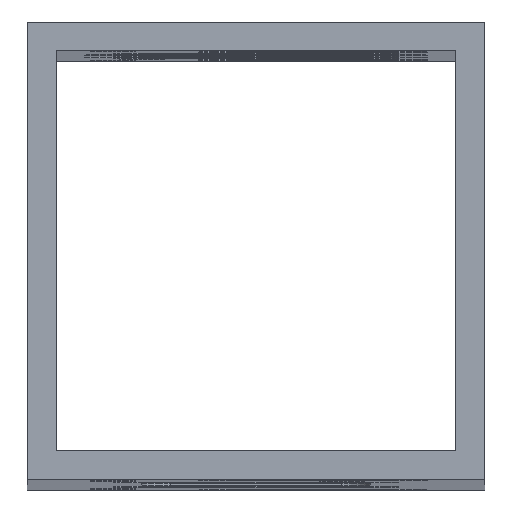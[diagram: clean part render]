
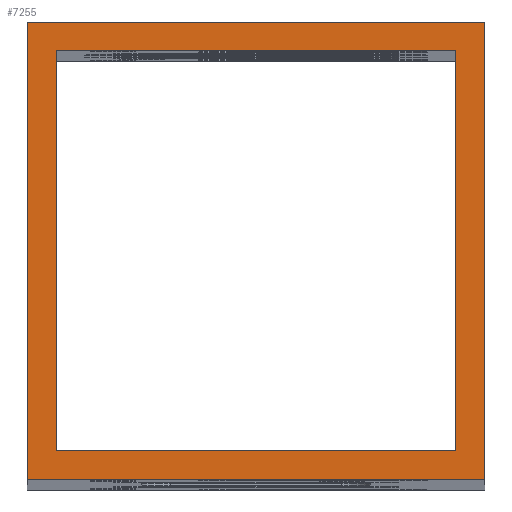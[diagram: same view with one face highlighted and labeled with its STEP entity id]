
A CAD part, top view. The second image highlights one B-rep face of the part: STEP entity #7255.
In plain terms, the highlighted planar face has unit normal (0, 0, 1).
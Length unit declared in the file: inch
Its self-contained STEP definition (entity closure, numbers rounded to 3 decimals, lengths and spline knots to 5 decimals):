
#6221=CARTESIAN_POINT('',(0.125,-0.125,0.0));
#6222=VERTEX_POINT('',#6221);
#6229=CARTESIAN_POINT('',(0.125,-1.875,0.0));
#6230=VERTEX_POINT('',#6229);
#6231=CARTESIAN_POINT('',(0.125,-1.875,0.0));
#6232=DIRECTION('',(0.0,1.0,0.0));
#6233=VECTOR('',#6232,1.75);
#6234=LINE('',#6231,#6233);
#6235=EDGE_CURVE('',#6230,#6222,#6234,.T.);
#6365=CARTESIAN_POINT('',(1.875,-1.875,0.0));
#6366=VERTEX_POINT('',#6365);
#6367=CARTESIAN_POINT('',(1.875,-1.875,0.0));
#6368=DIRECTION('',(-1.0,0.0,0.0));
#6369=VECTOR('',#6368,1.75);
#6370=LINE('',#6367,#6369);
#6371=EDGE_CURVE('',#6366,#6230,#6370,.T.);
#6488=CARTESIAN_POINT('',(1.875,-0.125,0.0));
#6489=VERTEX_POINT('',#6488);
#6490=CARTESIAN_POINT('',(1.875,-0.125,0.0));
#6491=DIRECTION('',(0.0,-1.0,0.0));
#6492=VECTOR('',#6491,1.75);
#6493=LINE('',#6490,#6492);
#6494=EDGE_CURVE('',#6489,#6366,#6493,.T.);
#6577=CARTESIAN_POINT('',(0.125,-0.125,0.0));
#6578=DIRECTION('',(1.0,0.0,0.0));
#6579=VECTOR('',#6578,1.75);
#6580=LINE('',#6577,#6579);
#6581=EDGE_CURVE('',#6222,#6489,#6580,.T.);
#6734=CARTESIAN_POINT('',(2.,-2.0,0.0));
#6735=VERTEX_POINT('',#6734);
#6742=CARTESIAN_POINT('',(0.,-2.0,0.0));
#6743=VERTEX_POINT('',#6742);
#6744=CARTESIAN_POINT('',(0.,-2.0,0.0));
#6745=DIRECTION('',(1.0,0.0,0.0));
#6746=VECTOR('',#6745,2.0);
#6747=LINE('',#6744,#6746);
#6748=EDGE_CURVE('',#6743,#6735,#6747,.T.);
#6855=CARTESIAN_POINT('',(2.0,0.,0.0));
#6856=VERTEX_POINT('',#6855);
#6863=CARTESIAN_POINT('',(2.,-2.0,0.0));
#6864=DIRECTION('',(0.0,1.0,0.0));
#6865=VECTOR('',#6864,2.);
#6866=LINE('',#6863,#6865);
#6867=EDGE_CURVE('',#6735,#6856,#6866,.T.);
#6943=CARTESIAN_POINT('',(0.0,0.0,0.0));
#6944=VERTEX_POINT('',#6943);
#6951=CARTESIAN_POINT('',(2.0,0.,0.0));
#6952=DIRECTION('',(-1.0,0.0,0.0));
#6953=VECTOR('',#6952,2.0);
#6954=LINE('',#6951,#6953);
#6955=EDGE_CURVE('',#6856,#6944,#6954,.T.);
#7105=CARTESIAN_POINT('',(0.0,0.0,0.0));
#7106=DIRECTION('',(0.0,-1.0,0.0));
#7107=VECTOR('',#7106,2.0);
#7108=LINE('',#7105,#7107);
#7109=EDGE_CURVE('',#6944,#6743,#7108,.T.);
#7238=CARTESIAN_POINT('',(1.,-1.0,0.0));
#7239=DIRECTION('',(0.0,0.0,1.0));
#7240=DIRECTION('',(1.0,0.0,0.0));
#7241=AXIS2_PLACEMENT_3D('',#7238,#7239,#7240);
#7242=PLANE('',#7241);
#7243=ORIENTED_EDGE('',*,*,#7109,.T.);
#7244=ORIENTED_EDGE('',*,*,#6748,.T.);
#7245=ORIENTED_EDGE('',*,*,#6867,.T.);
#7246=ORIENTED_EDGE('',*,*,#6955,.T.);
#7247=EDGE_LOOP('',(#7243,#7244,#7245,#7246));
#7248=FACE_OUTER_BOUND('',#7247,.T.);
#7249=ORIENTED_EDGE('',*,*,#6235,.T.);
#7250=ORIENTED_EDGE('',*,*,#6581,.T.);
#7251=ORIENTED_EDGE('',*,*,#6494,.T.);
#7252=ORIENTED_EDGE('',*,*,#6371,.T.);
#7253=EDGE_LOOP('',(#7249,#7250,#7251,#7252));
#7254=FACE_BOUND('',#7253,.T.);
#7255=ADVANCED_FACE('',(#7248,#7254),#7242,.T.);
